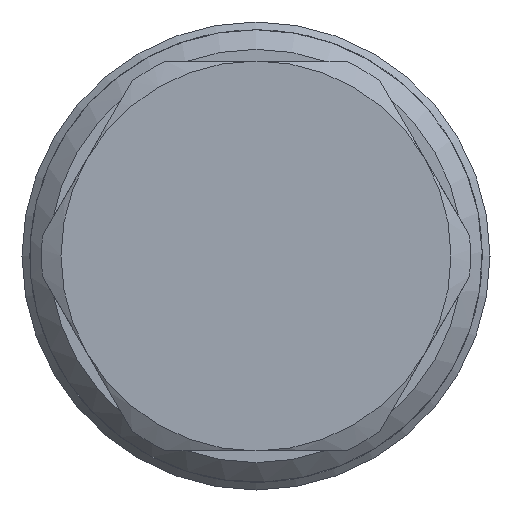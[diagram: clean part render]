
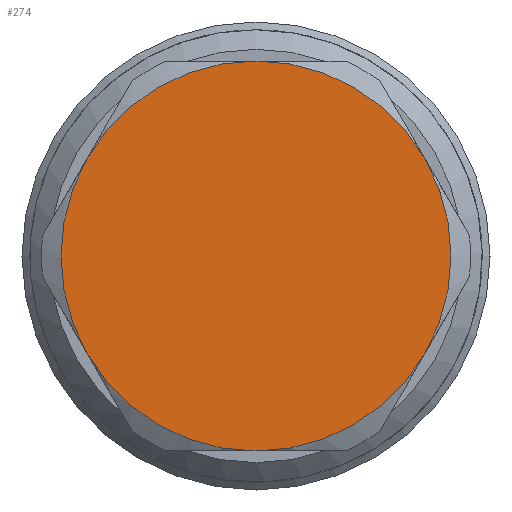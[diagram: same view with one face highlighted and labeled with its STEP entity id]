
A CAD part, left-side view. The second image highlights one B-rep face of the part: STEP entity #274.
In plain terms, the highlighted planar face has unit normal (-1, 0, 0).
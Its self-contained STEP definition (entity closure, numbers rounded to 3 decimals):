
#88=FACE_OUTER_BOUND('',#487,.T.);
#213=PLANE('',#1180);
#274=ADVANCED_FACE('',(#88),#213,.T.);
#487=EDGE_LOOP('',(#689,#690,#691,#692,#693,#694));
#689=ORIENTED_EDGE('',*,*,#962,.T.);
#690=ORIENTED_EDGE('',*,*,#963,.T.);
#691=ORIENTED_EDGE('',*,*,#964,.T.);
#692=ORIENTED_EDGE('',*,*,#965,.T.);
#693=ORIENTED_EDGE('',*,*,#966,.T.);
#694=ORIENTED_EDGE('',*,*,#967,.T.);
#849=VERTEX_POINT('',#1812);
#850=VERTEX_POINT('',#1813);
#851=VERTEX_POINT('',#1815);
#852=VERTEX_POINT('',#1817);
#853=VERTEX_POINT('',#1819);
#854=VERTEX_POINT('',#1821);
#962=EDGE_CURVE('',#849,#850,#1048,.T.);
#963=EDGE_CURVE('',#850,#851,#1049,.T.);
#964=EDGE_CURVE('',#851,#852,#1050,.T.);
#965=EDGE_CURVE('',#852,#853,#1051,.T.);
#966=EDGE_CURVE('',#853,#854,#1052,.T.);
#967=EDGE_CURVE('',#854,#849,#1053,.T.);
#1048=CIRCLE('',#1174,5.);
#1049=CIRCLE('',#1175,5.);
#1050=CIRCLE('',#1176,5.);
#1051=CIRCLE('',#1177,5.);
#1052=CIRCLE('',#1178,5.);
#1053=CIRCLE('',#1179,5.);
#1174=AXIS2_PLACEMENT_3D('',#1811,#1465,#1466);
#1175=AXIS2_PLACEMENT_3D('',#1814,#1467,#1468);
#1176=AXIS2_PLACEMENT_3D('',#1816,#1469,#1470);
#1177=AXIS2_PLACEMENT_3D('',#1818,#1471,#1472);
#1178=AXIS2_PLACEMENT_3D('',#1820,#1473,#1474);
#1179=AXIS2_PLACEMENT_3D('',#1822,#1475,#1476);
#1180=AXIS2_PLACEMENT_3D('',#1823,#1477,#1478);
#1465=DIRECTION('',(-1.,0.,0.));
#1466=DIRECTION('',(0.,-1.,0.));
#1467=DIRECTION('',(-1.,0.,0.));
#1468=DIRECTION('',(0.,-1.,0.));
#1469=DIRECTION('',(-1.,0.,0.));
#1470=DIRECTION('',(0.,-1.,0.));
#1471=DIRECTION('',(-1.,0.,0.));
#1472=DIRECTION('',(0.,-1.,0.));
#1473=DIRECTION('',(-1.,0.,0.));
#1474=DIRECTION('',(0.,-1.,0.));
#1475=DIRECTION('',(-1.,0.,0.));
#1476=DIRECTION('',(0.,-1.,0.));
#1477=DIRECTION('',(-1.,0.,0.));
#1478=DIRECTION('',(0.,1.,0.));
#1811=CARTESIAN_POINT('',(-28.7,0.,0.));
#1812=CARTESIAN_POINT('',(-28.7,-4.33,2.5));
#1813=CARTESIAN_POINT('',(-28.7,0.,5.));
#1814=CARTESIAN_POINT('',(-28.7,0.,0.));
#1815=CARTESIAN_POINT('',(-28.7,4.33,2.5));
#1816=CARTESIAN_POINT('',(-28.7,0.,0.));
#1817=CARTESIAN_POINT('',(-28.7,4.33,-2.5));
#1818=CARTESIAN_POINT('',(-28.7,0.,0.));
#1819=CARTESIAN_POINT('',(-28.7,0.,-5.));
#1820=CARTESIAN_POINT('',(-28.7,0.,0.));
#1821=CARTESIAN_POINT('',(-28.7,-4.33,-2.5));
#1822=CARTESIAN_POINT('',(-28.7,0.,0.));
#1823=CARTESIAN_POINT('',(-28.7,0.,0.));
